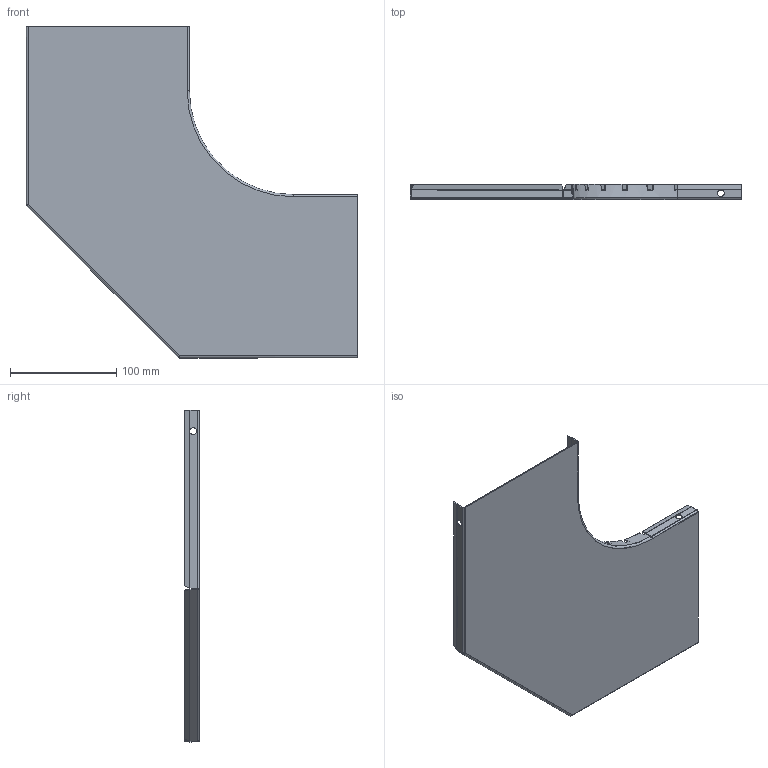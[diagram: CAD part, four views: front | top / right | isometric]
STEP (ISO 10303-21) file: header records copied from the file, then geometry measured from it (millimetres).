
FILE_DESCRIPTION (( 'STEP AP203' ), '1' );
FILE_NAME ('TCPERC 150.STEP', '2020-02-12T11:52:52', ( '' ), ( '' ), 'SwSTEP 2.0', 'SolidWorks 2019', '' );
FILE_SCHEMA (( 'CONFIG_CONTROL_DESIGN' ));
Length unit declared in the file: millimetre
Products named in the file (1): TCPERC 150
Bounding box: 313 x 14.19 x 313 mm (x, y, z)
Volume: 74166.8 mm3; surface area: 149753.9 mm2
Topology: 1 solids, 1 shells, 156 faces, 366 edges, 204 vertices
Faces by surface type: plane 71, cylinder 42, bspline 31, cone 8, torus 4
Entity records: 5375 total; most frequent: CARTESIAN_POINT 1994, ORIENTED_EDGE 732, DIRECTION 610, EDGE_CURVE 366, AXIS2_PLACEMENT_3D 212, VERTEX_POINT 204, LINE 186, VECTOR 186
